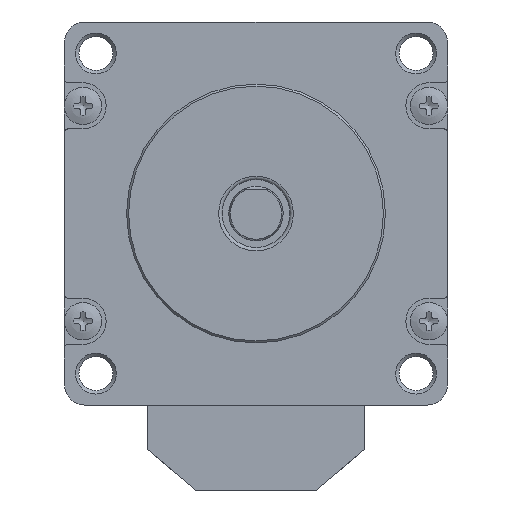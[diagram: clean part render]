
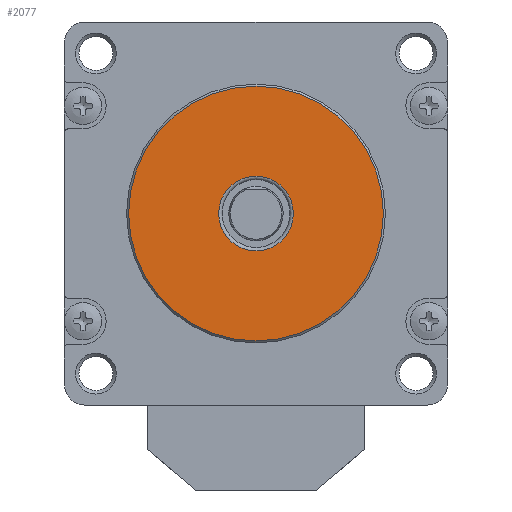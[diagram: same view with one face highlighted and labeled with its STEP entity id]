
A CAD part, front view. The second image highlights one B-rep face of the part: STEP entity #2077.
In plain terms, the highlighted planar face has unit normal (0, -1, 0).
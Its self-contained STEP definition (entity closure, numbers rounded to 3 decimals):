
#1269=CARTESIAN_POINT('',(5.5,-12.6,0.));
#1270=VERTEX_POINT('',#1269);
#1280=CARTESIAN_POINT('',(0.,-12.6,0.));
#1281=DIRECTION('',(1.,0.,0.));
#1282=DIRECTION('',(0.,-1.,0.));
#1283=AXIS2_PLACEMENT_3D('',#1280,#1282,#1281);
#1284=CIRCLE('',#1283,5.5);
#1285=EDGE_CURVE('',#1270,#1270,#1284,.T.);
#2058=CARTESIAN_POINT('',(-5.104,-12.6,0.));
#2059=DIRECTION('',(1.,0.,0.));
#2060=DIRECTION('',(0.,-1.,0.));
#2061=AXIS2_PLACEMENT_3D('',#2058,#2060,#2059);
#2062=PLANE('',#2061);
#2063=CARTESIAN_POINT('',(18.75,-12.6,0.));
#2064=VERTEX_POINT('',#2063);
#2065=CARTESIAN_POINT('',(0.,-12.6,0.));
#2066=DIRECTION('',(1.,0.,0.));
#2067=DIRECTION('',(0.,1.,0.));
#2068=AXIS2_PLACEMENT_3D('',#2065,#2067,#2066);
#2069=CIRCLE('',#2068,18.75);
#2070=EDGE_CURVE('',#2064,#2064,#2069,.T.);
#2071=ORIENTED_EDGE('E251',*,*,#2070,.F.);
#2072=EDGE_LOOP('',(#2071));
#2073=FACE_OUTER_BOUND('',#2072,.T.);
#2074=ORIENTED_EDGE('',*,*,#1285,.F.);
#2075=EDGE_LOOP('',(#2074));
#2076=FACE_BOUND('',#2075,.T.);
#2077=ADVANCED_FACE('F8',(#2073,#2076),#2062,.T.);
